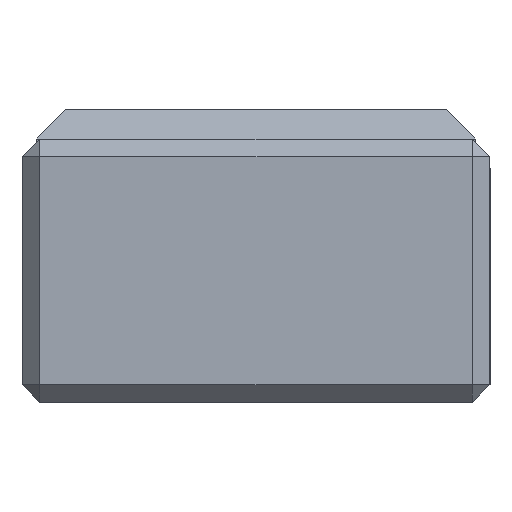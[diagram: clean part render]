
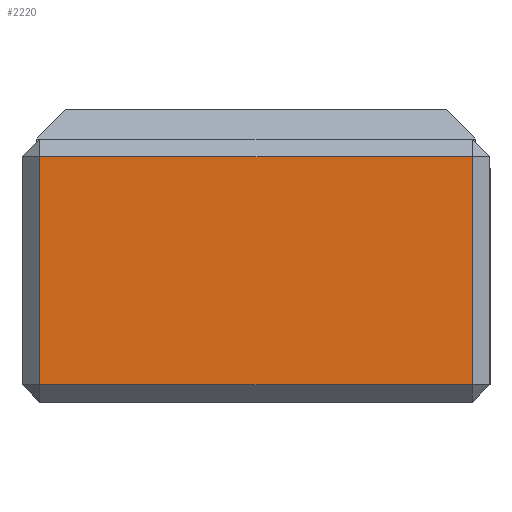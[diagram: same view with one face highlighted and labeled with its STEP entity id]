
A CAD part, left-side view. The second image highlights one B-rep face of the part: STEP entity #2220.
In plain terms, the highlighted planar face has unit normal (-1, 0, 0).
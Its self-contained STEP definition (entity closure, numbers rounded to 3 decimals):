
#2007 = VERTEX_POINT('',#2008);
#2008 = CARTESIAN_POINT('',(-0.8,0.03,0.03));
#2014 = EDGE_CURVE('',#2007,#2015,#2017,.T.);
#2015 = VERTEX_POINT('',#2016);
#2016 = CARTESIAN_POINT('',(-0.8,0.03,0.42));
#2017 = LINE('',#2018,#2019);
#2018 = CARTESIAN_POINT('',(-0.8,0.03,0.));
#2019 = VECTOR('',#2020,1.);
#2020 = DIRECTION('',(0.,0.,1.));
#2073 = VERTEX_POINT('',#2074);
#2074 = CARTESIAN_POINT('',(-0.8,0.77,0.03));
#2080 = EDGE_CURVE('',#2007,#2073,#2081,.T.);
#2081 = LINE('',#2082,#2083);
#2082 = CARTESIAN_POINT('',(-0.8,0.,0.03));
#2083 = VECTOR('',#2084,1.);
#2084 = DIRECTION('',(0.,1.,0.));
#2135 = EDGE_CURVE('',#2073,#2136,#2138,.T.);
#2136 = VERTEX_POINT('',#2137);
#2137 = CARTESIAN_POINT('',(-0.8,0.77,0.42));
#2138 = LINE('',#2139,#2140);
#2139 = CARTESIAN_POINT('',(-0.8,0.77,0.));
#2140 = VECTOR('',#2141,1.);
#2141 = DIRECTION('',(0.,0.,1.));
#2220 = ADVANCED_FACE('',(#2221),#2232,.F.);
#2221 = FACE_BOUND('',#2222,.F.);
#2222 = EDGE_LOOP('',(#2223,#2224,#2225,#2231));
#2223 = ORIENTED_EDGE('',*,*,#2080,.T.);
#2224 = ORIENTED_EDGE('',*,*,#2135,.T.);
#2225 = ORIENTED_EDGE('',*,*,#2226,.F.);
#2226 = EDGE_CURVE('',#2015,#2136,#2227,.T.);
#2227 = LINE('',#2228,#2229);
#2228 = CARTESIAN_POINT('',(-0.8,0.,0.42));
#2229 = VECTOR('',#2230,1.);
#2230 = DIRECTION('',(0.,1.,0.));
#2231 = ORIENTED_EDGE('',*,*,#2014,.F.);
#2232 = PLANE('',#2233);
#2233 = AXIS2_PLACEMENT_3D('',#2234,#2235,#2236);
#2234 = CARTESIAN_POINT('',(-0.8,0.,0.));
#2235 = DIRECTION('',(1.,0.,0.));
#2236 = DIRECTION('',(0.,0.,1.));
